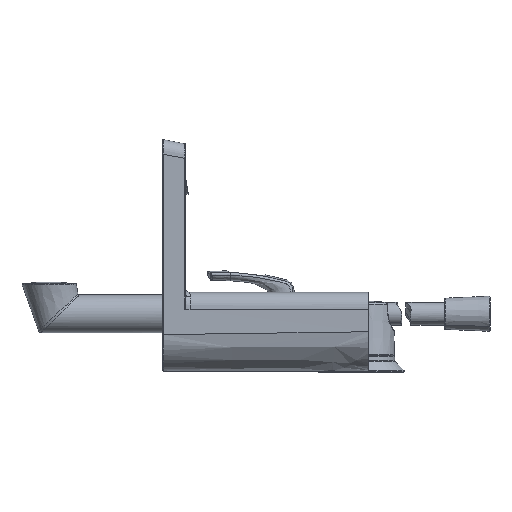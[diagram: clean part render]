
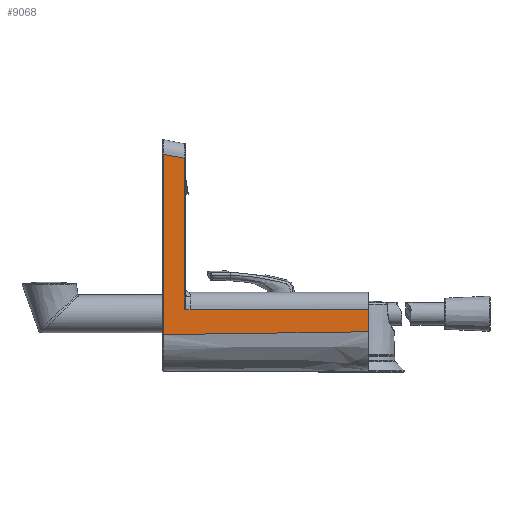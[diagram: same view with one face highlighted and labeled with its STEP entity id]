
A CAD part, left-side view. The second image highlights one B-rep face of the part: STEP entity #9068.
In plain terms, the highlighted free-form (B-spline) face has degree [3, 3] with [6, 6] control points.
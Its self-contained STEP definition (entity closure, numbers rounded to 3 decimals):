
#1508 = CARTESIAN_POINT ( 'NONE',  ( -23.354, 121.513, 114.761 ) ) ;
#1722 = CARTESIAN_POINT ( 'NONE',  ( -23.092, 130.846, 116.581 ) ) ;
#1827 = CARTESIAN_POINT ( 'NONE',  ( -24.197, 136., -1.876 ) ) ;
#2052 = CARTESIAN_POINT ( 'NONE',  ( -25.427, 45.333, 103.159 ) ) ;
#2728 = LINE ( 'NONE', #8314, #21534 ) ;
#3613 = B_SPLINE_CURVE_WITH_KNOTS ( 'NONE', 3,
 ( #27379, #1722, #12114, #1508 ),
 .UNSPECIFIED., .F., .F.,
 ( 4, 4 ),
 ( 0., 1. ),
 .UNSPECIFIED. ) ;
#3910 = CARTESIAN_POINT ( 'NONE',  ( -24.311, 121., 14.681 ) ) ;
#4179 = EDGE_CURVE ( 'NONE', #14998, #10884, #3613, .T. ) ;
#4411 = CARTESIAN_POINT ( 'NONE',  ( -26.334, 15.111, 16.668 ) ) ;
#4522 = CARTESIAN_POINT ( 'NONE',  ( -24.33, 119.981, 14.68 ) ) ;
#4622 = CARTESIAN_POINT ( 'NONE',  ( -25.621, 45.333, 51.267 ) ) ;
#5087 = ORIENTED_EDGE ( 'NONE', *, *, #14543, .T. ) ;
#5162 = EDGE_LOOP ( 'NONE', ( #17491, #21453, #26476, #25793, #19690, #11509, #8757, #5087, #17228 ) ) ;
#5371 = B_SPLINE_SURFACE_WITH_KNOTS ( 'NONE', 3, 3, ( 
 ( #11776, #32877, #12334, #7194, #22383, #1827 ),
 ( #9426, #4411, #6976, #22488, #17590, #24826 ),
 ( #17145, #27273, #4622, #12115, #22267, #19824 ),
 ( #12003, #14788, #2052, #12217, #14677, #9547 ),
 ( #25037, #27706, #27489, #7310, #32768, #27380 ),
 ( #25156, #29838, #14567, #32444, #32549, #17258 ) ),
 .UNSPECIFIED., .F., .F., .F.,
 ( 4, 1, 1, 4 ),
 ( 4, 1, 1, 4 ),
 ( 0., 0.333, 0.667, 1. ),
 ( 0., 0.333, 0.667, 1. ),
 .UNSPECIFIED. ) ;
#5476 = B_SPLINE_CURVE_WITH_KNOTS ( 'NONE', 3,
 ( #23739, #31126, #21085, #13044 ),
 .UNSPECIFIED., .F., .F.,
 ( 4, 4 ),
 ( 0., 1. ),
 .UNSPECIFIED. ) ;
#5617 = FACE_OUTER_BOUND ( 'NONE', #5162, .T. ) ;
#5933 = CARTESIAN_POINT ( 'NONE',  ( -23.92, 121.511, 54.982 ) ) ;
#6906 = VERTEX_POINT ( 'NONE', #14185 ) ;
#6976 = CARTESIAN_POINT ( 'NONE',  ( -25.751, 45.333, 16.672 ) ) ;
#7194 = CARTESIAN_POINT ( 'NONE',  ( -25.006, 90.667, -1.251 ) ) ;
#7310 = CARTESIAN_POINT ( 'NONE',  ( -23.97, 90.667, 142.173 ) ) ;
#8118 = CARTESIAN_POINT ( 'NONE',  ( -25.411, 68., -0.938 ) ) ;
#8314 = CARTESIAN_POINT ( 'NONE',  ( -26.625, 0., 75. ) ) ;
#8757 = ORIENTED_EDGE ( 'NONE', *, *, #23446, .T. ) ;
#9068 = ADVANCED_FACE ( 'NONE', ( #5617 ), #5371, .T. ) ;
#9077 = EDGE_CURVE ( 'NONE', #30263, #19657, #25410, .T. ) ;
#9426 = CARTESIAN_POINT ( 'NONE',  ( -26.625, 0., 16.667 ) ) ;
#9547 = CARTESIAN_POINT ( 'NONE',  ( -23.031, 136., 109.476 ) ) ;
#9656 = CARTESIAN_POINT ( 'NONE',  ( -24.369, 117.942, 14.679 ) ) ;
#10398 = EDGE_CURVE ( 'NONE', #18620, #14998, #25190, .T. ) ;
#10808 = VERTEX_POINT ( 'NONE', #17813 ) ;
#10884 = VERTEX_POINT ( 'NONE', #30404 ) ;
#11055 = CARTESIAN_POINT ( 'NONE',  ( -23.354, 121.513, 114.761 ) ) ;
#11509 = ORIENTED_EDGE ( 'NONE', *, *, #10398, .F. ) ;
#11776 = CARTESIAN_POINT ( 'NONE',  ( -26.625, 0., 0. ) ) ;
#12003 = CARTESIAN_POINT ( 'NONE',  ( -26.625, 0., 100. ) ) ;
#12114 = CARTESIAN_POINT ( 'NONE',  ( -23.223, 126.18, 115.671 ) ) ;
#12115 = CARTESIAN_POINT ( 'NONE',  ( -24.618, 90.667, 52.533 ) ) ;
#12217 = CARTESIAN_POINT ( 'NONE',  ( -24.229, 90.667, 106.317 ) ) ;
#12334 = CARTESIAN_POINT ( 'NONE',  ( -25.816, 45.333, -0.625 ) ) ;
#13044 = CARTESIAN_POINT ( 'NONE',  ( -24.202, 121.51, 25.093 ) ) ;
#13232 = CARTESIAN_POINT ( 'NONE',  ( -24.369, 117.942, 14.679 ) ) ;
#13274 = B_SPLINE_CURVE_WITH_KNOTS ( 'NONE', 3,
 ( #31972, #27440, #20108, #24889 ),
 .UNSPECIFIED., .F., .F.,
 ( 4, 4 ),
 ( 0., 1. ),
 .UNSPECIFIED. ) ;
#13926 = EDGE_CURVE ( 'NONE', #6906, #25837, #5476, .T. ) ;
#14185 = CARTESIAN_POINT ( 'NONE',  ( -24.301, 121.51, 14.682 ) ) ;
#14338 = VECTOR ( 'NONE', #20063, 1000. ) ;
#14543 = EDGE_CURVE ( 'NONE', #24691, #10808, #2728, .T. ) ;
#14567 = CARTESIAN_POINT ( 'NONE',  ( -25.233, 45.333, 155.051 ) ) ;
#14677 = CARTESIAN_POINT ( 'NONE',  ( -23.43, 120.889, 108.423 ) ) ;
#14788 = CARTESIAN_POINT ( 'NONE',  ( -26.226, 15.111, 101.053 ) ) ;
#14998 = VERTEX_POINT ( 'NONE', #19985 ) ;
#16343 = LINE ( 'NONE', #17046, #14338 ) ;
#17046 = CARTESIAN_POINT ( 'NONE',  ( -24.306, 121.255, 14.681 ) ) ;
#17145 = CARTESIAN_POINT ( 'NONE',  ( -26.625, 0., 50. ) ) ;
#17228 = ORIENTED_EDGE ( 'NONE', *, *, #26188, .T. ) ;
#17258 = CARTESIAN_POINT ( 'NONE',  ( -22.448, 136., 165.152 ) ) ;
#17491 = ORIENTED_EDGE ( 'NONE', *, *, #9077, .T. ) ;
#17590 = CARTESIAN_POINT ( 'NONE',  ( -24.294, 120.889, 16.681 ) ) ;
#17813 = CARTESIAN_POINT ( 'NONE',  ( -26.625, 0., 14.573 ) ) ;
#18127 = CARTESIAN_POINT ( 'NONE',  ( -26.625, 0., 0. ) ) ;
#18373 = VECTOR ( 'NONE', #30979, 1000. ) ;
#18620 = VERTEX_POINT ( 'NONE', #20517 ) ;
#18891 = CARTESIAN_POINT ( 'NONE',  ( -23.637, 121.512, 84.871 ) ) ;
#19657 = VERTEX_POINT ( 'NONE', #3910 ) ;
#19690 = ORIENTED_EDGE ( 'NONE', *, *, #4179, .F. ) ;
#19824 = CARTESIAN_POINT ( 'NONE',  ( -23.614, 136., 53.8 ) ) ;
#19985 = CARTESIAN_POINT ( 'NONE',  ( -22.96, 135.513, 117.491 ) ) ;
#20063 = DIRECTION ( 'NONE',  ( -0.019, -1., -0.001 ) ) ;
#20108 = CARTESIAN_POINT ( 'NONE',  ( -25.165, 76.363, 14.645 ) ) ;
#20517 = CARTESIAN_POINT ( 'NONE',  ( -24.206, 135.509, -1.869 ) ) ;
#21085 = CARTESIAN_POINT ( 'NONE',  ( -24.235, 121.51, 21.622 ) ) ;
#21453 = ORIENTED_EDGE ( 'NONE', *, *, #22770, .F. ) ;
#21534 = VECTOR ( 'NONE', #27358, 1000. ) ;
#22267 = CARTESIAN_POINT ( 'NONE',  ( -23.948, 120.889, 53.378 ) ) ;
#22383 = CARTESIAN_POINT ( 'NONE',  ( -24.467, 120.889, -1.668 ) ) ;
#22488 = CARTESIAN_POINT ( 'NONE',  ( -24.877, 90.667, 16.677 ) ) ;
#22770 = EDGE_CURVE ( 'NONE', #6906, #19657, #16343, .T. ) ;
#23446 = EDGE_CURVE ( 'NONE', #18620, #24691, #29877, .T. ) ;
#23739 = CARTESIAN_POINT ( 'NONE',  ( -24.301, 121.51, 14.682 ) ) ;
#24131 = CARTESIAN_POINT ( 'NONE',  ( -24.202, 121.51, 25.093 ) ) ;
#24419 = CARTESIAN_POINT ( 'NONE',  ( -22.96, 135.513, 117.491 ) ) ;
#24691 = VERTEX_POINT ( 'NONE', #18127 ) ;
#24826 = CARTESIAN_POINT ( 'NONE',  ( -24.002, 136., 16.683 ) ) ;
#24889 = CARTESIAN_POINT ( 'NONE',  ( -24.369, 117.942, 14.679 ) ) ;
#25037 = CARTESIAN_POINT ( 'NONE',  ( -26.625, 0., 133.333 ) ) ;
#25156 = CARTESIAN_POINT ( 'NONE',  ( -26.625, 0., 150. ) ) ;
#25190 = B_SPLINE_CURVE_WITH_KNOTS ( 'NONE', 1,
 ( #29749, #24419 ),
 .UNSPECIFIED., .F., .F.,
 ( 2, 2 ),
 ( 0., 1. ),
 .UNSPECIFIED. ) ;
#25410 = B_SPLINE_CURVE_WITH_KNOTS ( 'NONE', 3,
 ( #9656, #27596, #4522, #32657 ),
 .UNSPECIFIED., .F., .F.,
 ( 4, 4 ),
 ( 0., 1. ),
 .UNSPECIFIED. ) ;
#25793 = ORIENTED_EDGE ( 'NONE', *, *, #28326, .T. ) ;
#25837 = VERTEX_POINT ( 'NONE', #24131 ) ;
#26188 = EDGE_CURVE ( 'NONE', #10808, #30263, #13274, .T. ) ;
#26233 = CARTESIAN_POINT ( 'NONE',  ( -24.202, 121.51, 25.093 ) ) ;
#26476 = ORIENTED_EDGE ( 'NONE', *, *, #13926, .T. ) ;
#27273 = CARTESIAN_POINT ( 'NONE',  ( -26.29, 15.111, 50.422 ) ) ;
#27358 = DIRECTION ( 'NONE',  ( 0., 0., 1. ) ) ;
#27379 = CARTESIAN_POINT ( 'NONE',  ( -22.96, 135.513, 117.491 ) ) ;
#27380 = CARTESIAN_POINT ( 'NONE',  ( -22.642, 136., 146.593 ) ) ;
#27440 = CARTESIAN_POINT ( 'NONE',  ( -25.917, 37.049, 14.609 ) ) ;
#27489 = CARTESIAN_POINT ( 'NONE',  ( -25.297, 45.333, 137.753 ) ) ;
#27596 = CARTESIAN_POINT ( 'NONE',  ( -24.35, 118.961, 14.68 ) ) ;
#27706 = CARTESIAN_POINT ( 'NONE',  ( -26.182, 15.111, 134.807 ) ) ;
#28326 = EDGE_CURVE ( 'NONE', #25837, #10884, #31262, .T. ) ;
#29749 = CARTESIAN_POINT ( 'NONE',  ( -24.206, 135.509, -1.869 ) ) ;
#29838 = CARTESIAN_POINT ( 'NONE',  ( -26.161, 15.111, 151.684 ) ) ;
#29877 = LINE ( 'NONE', #8118, #18373 ) ;
#30263 = VERTEX_POINT ( 'NONE', #13232 ) ;
#30404 = CARTESIAN_POINT ( 'NONE',  ( -23.354, 121.513, 114.761 ) ) ;
#30979 = DIRECTION ( 'NONE',  ( -0.018, -1., 0.014 ) ) ;
#31126 = CARTESIAN_POINT ( 'NONE',  ( -24.268, 121.51, 18.152 ) ) ;
#31262 = B_SPLINE_CURVE_WITH_KNOTS ( 'NONE', 3,
 ( #26233, #5933, #18891, #11055 ),
 .UNSPECIFIED., .F., .F.,
 ( 4, 4 ),
 ( 0., 1. ),
 .UNSPECIFIED. ) ;
#31972 = CARTESIAN_POINT ( 'NONE',  ( -26.625, 0., 14.573 ) ) ;
#32444 = CARTESIAN_POINT ( 'NONE',  ( -23.84, 90.667, 160.101 ) ) ;
#32549 = CARTESIAN_POINT ( 'NONE',  ( -22.912, 120.889, 163.469 ) ) ;
#32657 = CARTESIAN_POINT ( 'NONE',  ( -24.311, 121., 14.681 ) ) ;
#32768 = CARTESIAN_POINT ( 'NONE',  ( -23.085, 120.889, 145.12 ) ) ;
#32877 = CARTESIAN_POINT ( 'NONE',  ( -26.355, 15.111, -0.208 ) ) ;
